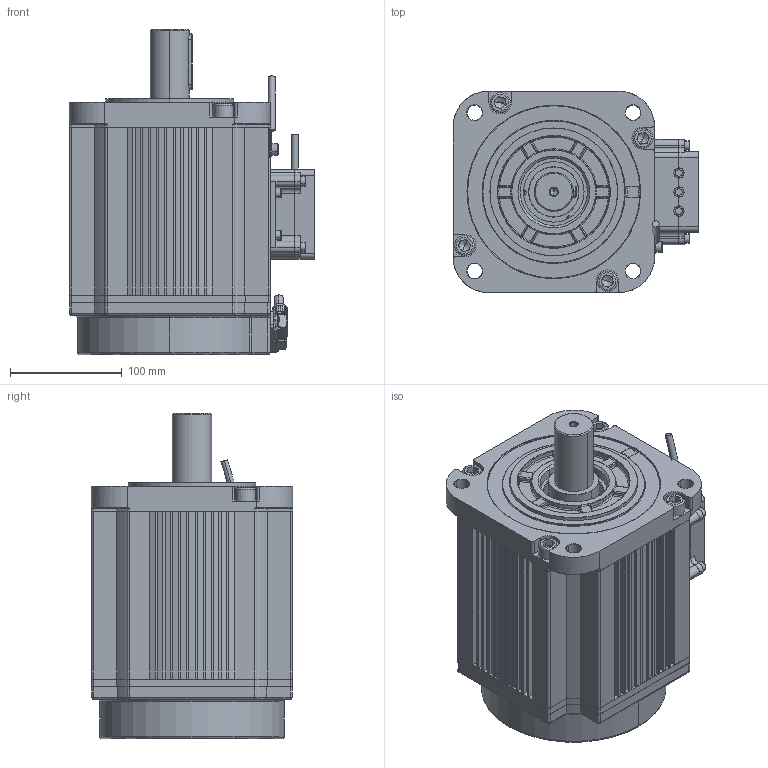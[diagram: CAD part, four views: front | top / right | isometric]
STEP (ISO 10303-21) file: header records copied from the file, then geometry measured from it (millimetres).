
FILE_DESCRIPTION (( 'STEP AP203' ), '1' );
FILE_NAME ('307091507SS（SMK180G-0400-20QBK-4GSA）-V1.0.STEP', '2025-01-06T11:50:26', ( 'wuyd' ), ( '' ), 'SwSTEP 2.0', 'SolidWorks 2023', '' );
FILE_SCHEMA (( 'CONFIG_CONTROL_DESIGN' ));
Products named in the file (1): 307091507SS（SMK180G-0400-20QBK-4GSA）-V1.0
Bounding box: 219.65 x 180 x 290.5 mm (x, y, z)
Volume: 1671676.9 mm3; surface area: 611922.2 mm2
Topology: 67 solids, 68 shells, 5597 faces, 14143 edges, 8750 vertices
Faces by surface type: plane 2684, cylinder 1590, torus 476, bspline 379, cone 364, sphere 104
Entity records: 187347 total; most frequent: CARTESIAN_POINT 55234, ORIENTED_EDGE 27818, DIRECTION 27029, EDGE_CURVE 13909, AXIS2_PLACEMENT_3D 9529, VERTEX_POINT 8715, LINE 7971, VECTOR 7971
